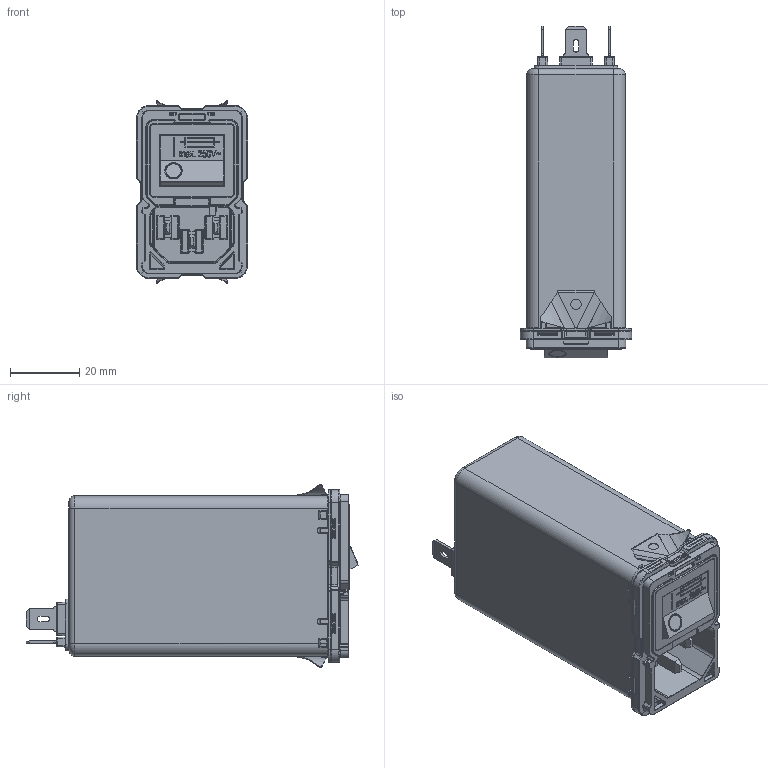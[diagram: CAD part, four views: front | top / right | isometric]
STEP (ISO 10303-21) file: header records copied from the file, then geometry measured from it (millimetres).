
FILE_DESCRIPTION((''),'2;1');
FILE_NAME('H:\02_Projects\A_Others\Z_Support\Luis\Cherry_STP\Step_Files\2 Stage\2_stage_faston_vertical_snap.stp','2012-07-26T14:55:31',('Samuel.Meier'),(''),'Autodesk Inventor 2010','Autodesk Inventor 2010','');
FILE_SCHEMA(('AUTOMOTIVE_DESIGN { 1 2 10303 214 0 1 1 1 }'));
Length unit declared in the file: millimetre
Products named in the file (1): 2_stage_faston_vertical_snap
Bounding box: 32.1 x 95.74 x 52.7 mm (x, y, z)
Surface area: 67407.3 mm2 (no closed solid volume)
Topology: 0 solids, 13 shells, 3237 faces, 8656 edges, 5342 vertices
Faces by surface type: plane 1286, cylinder 1231, bspline 488, torus 105, sphere 91, cone 36
Full cylindrical faces by diameter (mm): 0.8 x4, 1 x2, 1.1 x10, 1.2 x1, 2.7 x1, 3 x2, 3.3 x1, 3.6 x2, 4 x2, 6.5 x1, 7.2 x2, 8.2 x2
Entity records: 111139 total; most frequent: CARTESIAN_POINT 28405, ORIENTED_EDGE 17038, DIRECTION 16386, EDGE_CURVE 8519, AXIS2_PLACEMENT_3D 5737, VERTEX_POINT 5332, VECTOR 4912, LINE 4912
